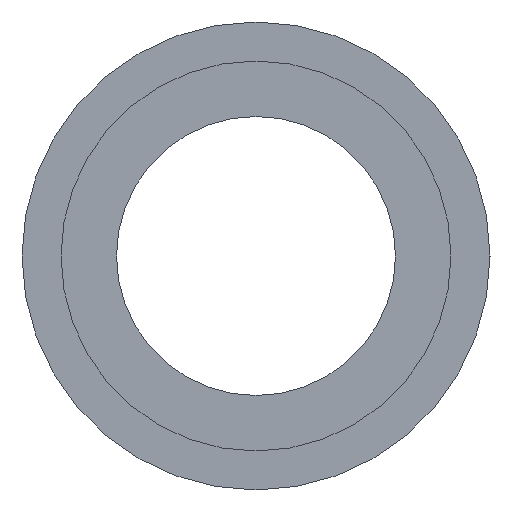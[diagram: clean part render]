
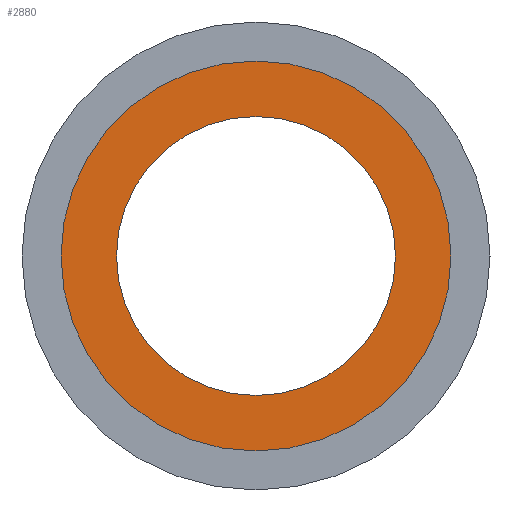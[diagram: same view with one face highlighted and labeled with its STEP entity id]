
A CAD part, left-side view. The second image highlights one B-rep face of the part: STEP entity #2880.
In plain terms, the highlighted planar face has unit normal (-1, 0, 0) as drawn and (1, 0, 0) by its records, which use the part's own axes.
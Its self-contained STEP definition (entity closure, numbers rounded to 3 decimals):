
#1860=CARTESIAN_POINT('',(102.611,34.079,0.));
#1870=VERTEX_POINT('',#1860);
#2030=CARTESIAN_POINT('',(102.611,95.579,0.));
#2040=VERTEX_POINT('',#2030);
#2070=CARTESIAN_POINT('',(102.611,64.829,0.));
#2080=DIRECTION('',(-1.,0.,-0.));
#2090=DIRECTION('',(0.,1.,0.));
#2100=AXIS2_PLACEMENT_3D('',#2070,#2080,#2090);
#2110=CIRCLE('',#2100,30.75);
#2120=EDGE_CURVE('',#1870,#2040,#2110,.T.);
#2630=CARTESIAN_POINT('',(102.611,28.979,0.));
#2640=DIRECTION('',(-1.,0.,0.));
#2650=DIRECTION('',(0.,1.,0.));
#2660=AXIS2_PLACEMENT_3D('',#2630,#2640,#2650);
#2670=PLANE('',#2660);
#2680=CARTESIAN_POINT('',(102.611,64.829,0.));
#2690=DIRECTION('',(-1.,0.,-0.));
#2700=DIRECTION('',(0.,0.,-1.));
#2710=AXIS2_PLACEMENT_3D('',#2680,#2690,#2700);
#2720=CIRCLE('',#2710,22.);
#2730=CARTESIAN_POINT('',(102.611,64.829,-22.));
#2740=VERTEX_POINT('',#2730);
#2750=CARTESIAN_POINT('',(102.611,64.829,22.));
#2760=VERTEX_POINT('',#2750);
#2770=EDGE_CURVE('',#2740,#2760,#2720,.T.);
#2780=ORIENTED_EDGE('',*,*,#2770,.T.);
#2790=EDGE_CURVE('',#2760,#2740,#2720,.T.);
#2800=ORIENTED_EDGE('',*,*,#2790,.T.);
#2810=EDGE_LOOP('',(#2800,#2780));
#2820=FACE_BOUND('',#2810,.T.);
#2830=EDGE_CURVE('',#2040,#1870,#2110,.T.);
#2840=ORIENTED_EDGE('',*,*,#2830,.F.);
#2850=ORIENTED_EDGE('',*,*,#2120,.F.);
#2860=EDGE_LOOP('',(#2850,#2840));
#2870=FACE_OUTER_BOUND('',#2860,.T.);
#2880=ADVANCED_FACE('',(#2820,#2870),#2670,.F.);
